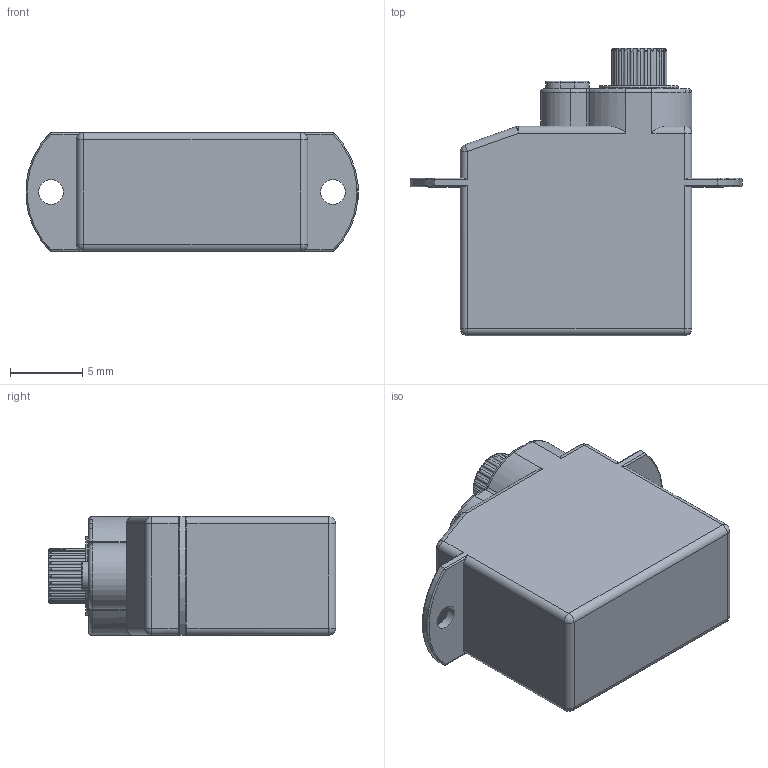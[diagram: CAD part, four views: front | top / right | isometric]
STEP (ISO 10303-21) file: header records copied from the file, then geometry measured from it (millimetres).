
FILE_DESCRIPTION((''),'2;1');
FILE_NAME('C02CLS','2022-07-08T',('Administrator'),(''),'PRO/ENGINEER BY PARAMETRIC TECHNOLOGY CORPORATION, 2010280','PRO/ENGINEER BY PARAMETRIC TECHNOLOGY CORPORATION, 2010280','');
FILE_SCHEMA(('CONFIG_CONTROL_DESIGN'));
Length unit declared in the file: millimetre
Products named in the file (1): C02CLS
Bounding box: 22.96 x 19.9 x 8.2 mm (x, y, z)
Volume: 2097.9 mm3; surface area: 1137.2 mm2
Topology: 1 solids, 1 shells, 149 faces, 401 edges, 257 vertices
Faces by surface type: cylinder 100, plane 23, torus 17, sphere 9
Entity records: 5221 total; most frequent: CARTESIAN_POINT 1508, ORIENTED_EDGE 802, DIRECTION 746, EDGE_CURVE 401, AXIS2_PLACEMENT_3D 296, VERTEX_POINT 257, EDGE_LOOP 156, VECTOR 154
